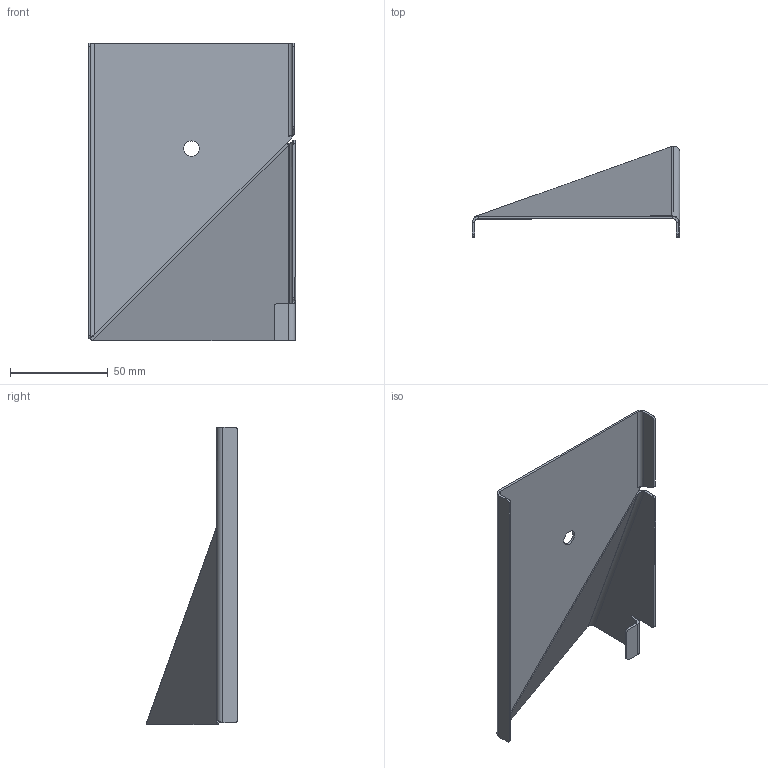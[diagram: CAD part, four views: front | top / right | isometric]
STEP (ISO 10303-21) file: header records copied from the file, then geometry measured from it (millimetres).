
FILE_DESCRIPTION (( 'STEP AP214' ), '1' );
FILE_NAME ('cts44tclss.STEP', '2007-05-31T18:22:58', ( '' ), ( '' ), 'SwSTEP 2.0', 'SolidWorks 2007', '' );
FILE_SCHEMA (( 'AUTOMOTIVE_DESIGN' ));
Length unit declared in the file: inch
Products named in the file (1): cts44tclss
Bounding box: 106.15 x 46.79 x 152.28 mm (x, y, z)
Volume: 25561.2 mm3; surface area: 42751 mm2
Topology: 1 solids, 1 shells, 67 faces, 155 edges, 90 vertices
Faces by surface type: plane 36, cylinder 25, bspline 6
Entity records: 2041 total; most frequent: CARTESIAN_POINT 548, ORIENTED_EDGE 310, DIRECTION 288, EDGE_CURVE 155, VECTOR 96, LINE 96, AXIS2_PLACEMENT_3D 96, VERTEX_POINT 90
